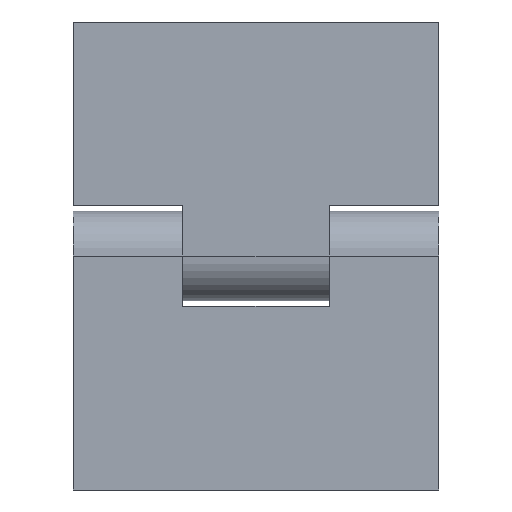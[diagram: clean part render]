
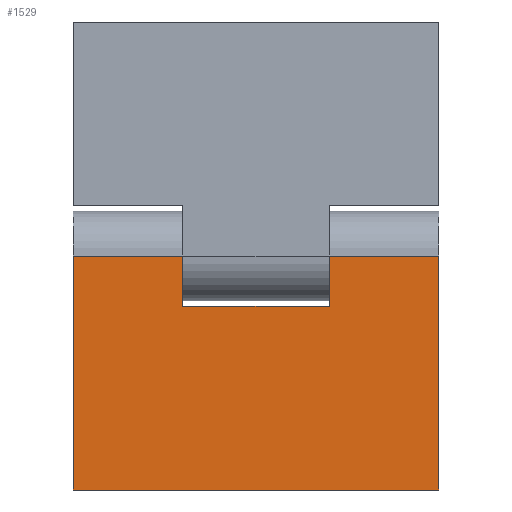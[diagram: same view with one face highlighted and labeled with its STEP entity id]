
A CAD part, front view. The second image highlights one B-rep face of the part: STEP entity #1529.
In plain terms, the highlighted planar face has unit normal (0, -1, 0).
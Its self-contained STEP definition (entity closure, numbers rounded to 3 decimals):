
#8 = VECTOR ( 'NONE', #1540, 1000. ) ;
#29 = DIRECTION ( 'NONE',  ( 0., 0., 1. ) ) ;
#47 = CARTESIAN_POINT ( 'NONE',  ( 5., 0., 0. ) ) ;
#59 = CARTESIAN_POINT ( 'NONE',  ( 5., 0., -3.45 ) ) ;
#97 = VECTOR ( 'NONE', #516, 1000. ) ;
#140 = DIRECTION ( 'NONE',  ( -1., 0., 0. ) ) ;
#158 = CARTESIAN_POINT ( 'NONE',  ( -5., 0., -3.45 ) ) ;
#170 = VECTOR ( 'NONE', #1594, 1000. ) ;
#182 = CARTESIAN_POINT ( 'NONE',  ( 12.5, 0., 0. ) ) ;
#194 = ORIENTED_EDGE ( 'NONE', *, *, #937, .T. ) ;
#203 = LINE ( 'NONE', #1135, #677 ) ;
#234 = VECTOR ( 'NONE', #604, 1000. ) ;
#255 = ORIENTED_EDGE ( 'NONE', *, *, #1183, .T. ) ;
#414 = CARTESIAN_POINT ( 'NONE',  ( 12.5, 0., -16. ) ) ;
#424 = VECTOR ( 'NONE', #459, 1000. ) ;
#429 = EDGE_CURVE ( 'NONE', #1710, #1150, #676, .T. ) ;
#459 = DIRECTION ( 'NONE',  ( 0., 0., -1. ) ) ;
#482 = CARTESIAN_POINT ( 'NONE',  ( -12.5, 0., -16. ) ) ;
#483 = CARTESIAN_POINT ( 'NONE',  ( -12.5, 0., 0. ) ) ;
#499 = LINE ( 'NONE', #1020, #543 ) ;
#516 = DIRECTION ( 'NONE',  ( -1., 0., 0. ) ) ;
#543 = VECTOR ( 'NONE', #1417, 1000. ) ;
#604 = DIRECTION ( 'NONE',  ( -1., 0., 0. ) ) ;
#625 = DIRECTION ( 'NONE',  ( -1., 0., 0. ) ) ;
#676 = LINE ( 'NONE', #1329, #1441 ) ;
#677 = VECTOR ( 'NONE', #625, 1000. ) ;
#685 = PLANE ( 'NONE',  #1357 ) ;
#694 = LINE ( 'NONE', #1604, #170 ) ;
#755 = ORIENTED_EDGE ( 'NONE', *, *, #1603, .T. ) ;
#780 = VERTEX_POINT ( 'NONE', #1087 ) ;
#828 = VERTEX_POINT ( 'NONE', #414 ) ;
#840 = FACE_OUTER_BOUND ( 'NONE', #1040, .T. ) ;
#892 = CARTESIAN_POINT ( 'NONE',  ( -12.5, 0., 0. ) ) ;
#896 = VERTEX_POINT ( 'NONE', #482 ) ;
#905 = ORIENTED_EDGE ( 'NONE', *, *, #1158, .F. ) ;
#937 = EDGE_CURVE ( 'NONE', #1429, #1710, #987, .T. ) ;
#982 = ORIENTED_EDGE ( 'NONE', *, *, #1496, .T. ) ;
#987 = LINE ( 'NONE', #1379, #424 ) ;
#996 = CARTESIAN_POINT ( 'NONE',  ( 12.5, 0., 0. ) ) ;
#1009 = CARTESIAN_POINT ( 'NONE',  ( 12.5, 0., -16. ) ) ;
#1020 = CARTESIAN_POINT ( 'NONE',  ( 12.5, 0., 0. ) ) ;
#1040 = EDGE_LOOP ( 'NONE', ( #982, #1092, #755, #1047, #905, #255, #194, #1596 ) ) ;
#1047 = ORIENTED_EDGE ( 'NONE', *, *, #1064, .F. ) ;
#1064 = EDGE_CURVE ( 'NONE', #828, #896, #1575, .T. ) ;
#1087 = CARTESIAN_POINT ( 'NONE',  ( 12.5, 0., 0. ) ) ;
#1092 = ORIENTED_EDGE ( 'NONE', *, *, #1203, .T. ) ;
#1135 = CARTESIAN_POINT ( 'NONE',  ( 12.5, 0., 0. ) ) ;
#1150 = VERTEX_POINT ( 'NONE', #158 ) ;
#1158 = EDGE_CURVE ( 'NONE', #780, #828, #499, .T. ) ;
#1183 = EDGE_CURVE ( 'NONE', #780, #1429, #203, .T. ) ;
#1195 = LINE ( 'NONE', #483, #8 ) ;
#1203 = EDGE_CURVE ( 'NONE', #1248, #1382, #1258, .T. ) ;
#1248 = VERTEX_POINT ( 'NONE', #1313 ) ;
#1258 = LINE ( 'NONE', #996, #234 ) ;
#1313 = CARTESIAN_POINT ( 'NONE',  ( -5., 0., 0. ) ) ;
#1329 = CARTESIAN_POINT ( 'NONE',  ( -5., 0., -3.45 ) ) ;
#1357 = AXIS2_PLACEMENT_3D ( 'NONE', #182, #1361, #29 ) ;
#1361 = DIRECTION ( 'NONE',  ( 0., 1., 0. ) ) ;
#1379 = CARTESIAN_POINT ( 'NONE',  ( 5., 0., 3.05 ) ) ;
#1382 = VERTEX_POINT ( 'NONE', #892 ) ;
#1417 = DIRECTION ( 'NONE',  ( 0., 0., -1. ) ) ;
#1429 = VERTEX_POINT ( 'NONE', #47 ) ;
#1441 = VECTOR ( 'NONE', #140, 1000. ) ;
#1496 = EDGE_CURVE ( 'NONE', #1150, #1248, #694, .T. ) ;
#1529 = ADVANCED_FACE ( 'NONE', ( #840 ), #685, .F. ) ;
#1540 = DIRECTION ( 'NONE',  ( 0., 0., -1. ) ) ;
#1575 = LINE ( 'NONE', #1009, #97 ) ;
#1594 = DIRECTION ( 'NONE',  ( 0., 0., 1. ) ) ;
#1596 = ORIENTED_EDGE ( 'NONE', *, *, #429, .T. ) ;
#1603 = EDGE_CURVE ( 'NONE', #1382, #896, #1195, .T. ) ;
#1604 = CARTESIAN_POINT ( 'NONE',  ( -5., 0., 3.05 ) ) ;
#1710 = VERTEX_POINT ( 'NONE', #59 ) ;
